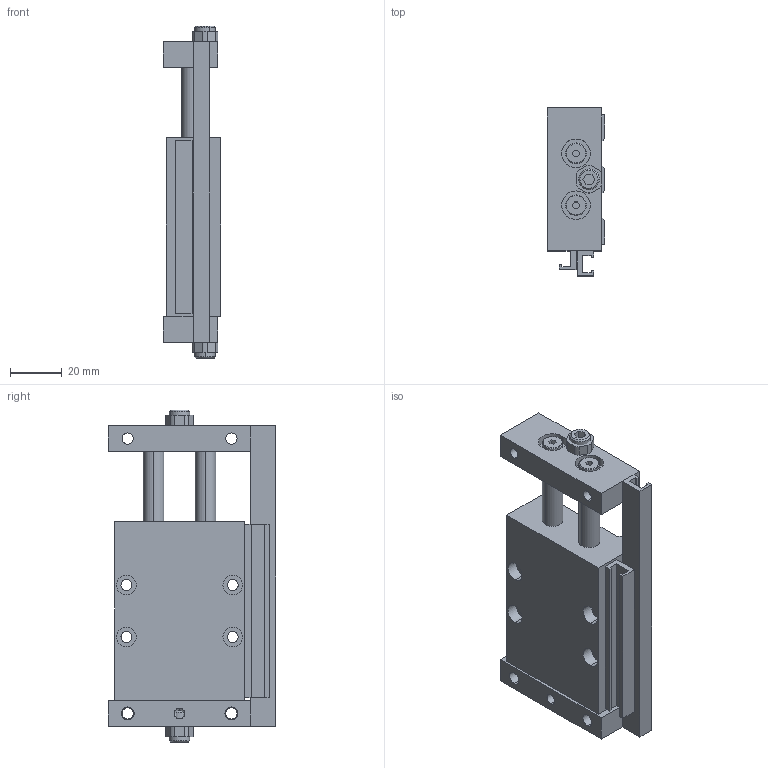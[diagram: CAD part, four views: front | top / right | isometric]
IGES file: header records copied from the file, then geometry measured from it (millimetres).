
Global section: file name: No Iges File Name specified; native system: Autodesk Inventor 2011; preprocessor: AutoDesk Inventor Iges Exporter R2011; author: nozzaem1; date: 20110516.134055; units: millimetre
Bounding box: 22 x 64.6 x 128 mm (x, y, z)
Volume: 98882.7 mm3; surface area: 41059.8 mm2
Topology: 8 solids, 8 shells, 295 faces, 686 edges, 447 vertices
Faces by surface type: plane 122, bspline 95, cylinder 38, revolution 20, cone 20
